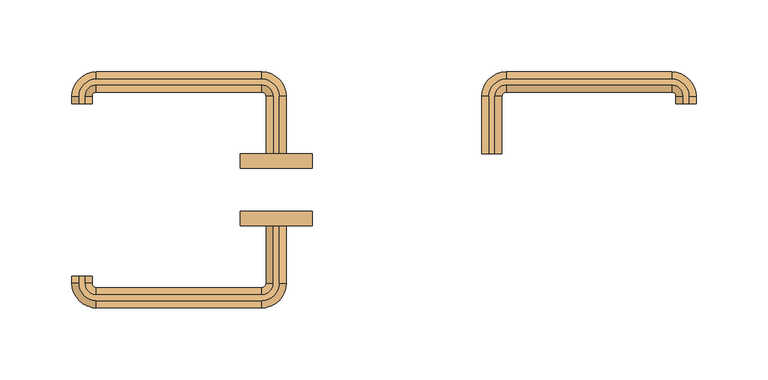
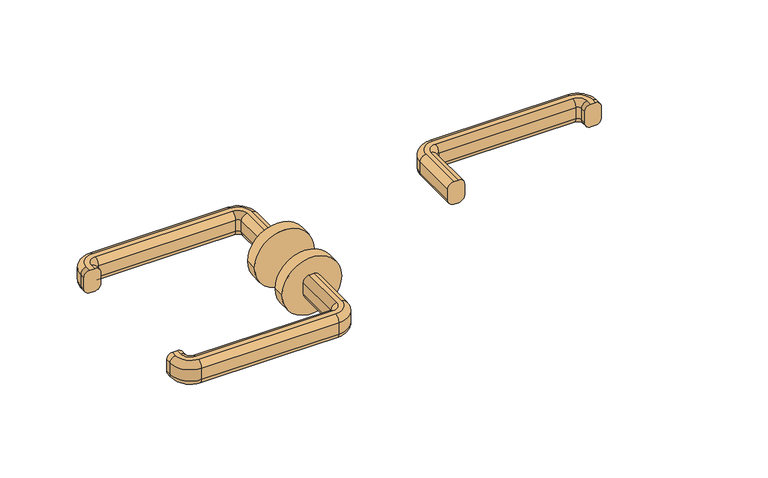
"""IFC4 building model written with IfcOpenShell, lengths in millimetres: door geometry, 両開 : SD-3 w1600h2000."""

from ifc_helpers import new_model, si_unit, point, frame, frame_2d, origin, place, context, project, spatial, polyline, circle_curve, ellipse_curve, trimmed, segment, composite_curve, outline, extrude, source, transform, mapped, element, save
from ifc_brep_helpers import plane_surface, cylinder_surface, revolved_surface, advanced_brep


def door_3436bc48(model_context):
    return source(origin(), model_context, "Body", "SolidModel", [
        advanced_brep(
        [(-73.0, 120.0, 960.0), (-77.0, 120.0, 960.0), (-82.0, 120.0, 955.0), (-82.0, 120.0, 945.0477623), (-77.0, 120.0, 940.0477623), (-73.0, 120.0, 940.0477623), (-68.0, 120.0, 945.0477623), (-68.0, 120.0, 955.0), (-68.0, 160.0, 955.0), (-73.0, 160.0, 960.0), (-68.0, 160.0, 945.0477623), (-73.0, 160.0, 940.0477623), (-77.0, 160.0, 940.0477623), (-85.0, 168.0, 940.0477623), (-200.0, 168.0, 940.0477623), (-208.0, 160.0, 940.0477623), (-208.0, 155.0, 940.0477623), (-212.0, 155.0, 940.0477623), (-212.0, 160.0, 940.0477623), (-200.0, 172.0, 940.0477623), (-85.0, 172.0, 940.0477623), (-82.0, 160.0, 945.0477623), (-82.0, 160.0, 955.0), (-77.0, 160.0, 960.0), (-85.0, 172.0, 960.0), (-200.0, 172.0, 960.0), (-212.0, 160.0, 960.0), (-212.0, 155.0, 960.0), (-208.0, 155.0, 960.0), (-208.0, 160.0, 960.0), (-200.0, 168.0, 960.0), (-85.0, 168.0, 960.0), (-85.0, 177.0, 955.0), (-85.0, 177.0, 945.0477623), (-85.0, 163.0, 945.0477623), (-85.0, 163.0, 955.0), (-200.0, 177.0, 955.0), (-200.0, 177.0, 945.0477623), (-200.0, 163.0, 945.0477623), (-200.0, 163.0, 955.0), (-217.0, 160.0, 955.0), (-217.0, 160.0, 945.0477623), (-203.0, 160.0, 945.0477623), (-203.0, 160.0, 955.0), (-217.0, 155.0, 955.0), (-217.0, 155.0, 945.0477623), (-203.0, 155.0, 945.0477623), (-203.0, 155.0, 955.0)],
        [
            (0, 1),
            (1, 2, circle_curve(frame((-77.0, 120.0, 955.0), z_axis=(0.0, -1.0, 0.0), x_axis=(1.0, 0.0, 0.0)), 5.0)),
            (2, 3),
            (3, 4, circle_curve(frame((-77.0, 120.0, 945.0477623), z_axis=(0.0, -1.0, 0.0), x_axis=(1.0, 0.0, 0.0)), 5.0)),
            (4, 5),
            (5, 6, circle_curve(frame((-73.0, 120.0, 945.0477623), z_axis=(0.0, -1.0, 0.0), x_axis=(1.0, 0.0, 0.0)), 5.0)),
            (6, 7),
            (7, 0, circle_curve(frame((-73.0, 120.0, 955.0), z_axis=(0.0, -1.0, 0.0), x_axis=(1.0, 0.0, 0.0)), 5.0)),
            (7, 8),
            (8, 9, circle_curve(frame((-73.0, 160.0, 955.0), z_axis=(0.0, -1.0, 0.0), x_axis=(1.0, 0.0, 0.0)), 5.0)),
            (9, 0),
            (6, 10),
            (10, 8),
            (5, 11),
            (11, 10, circle_curve(frame((-73.0, 160.0, 945.0477623), z_axis=(0.0, -1.0, 0.0), x_axis=(1.0, 0.0, 0.0)), 5.0)),
            (4, 12),
            (12, 13, circle_curve(frame((-85.0, 160.0, 940.0477623), z_axis=(0.0, 0.0, 1.0), x_axis=(1.0, 0.0, 0.0)), 8.0)),
            (13, 14),
            (14, 15, circle_curve(frame((-200.0, 160.0, 940.0477623), z_axis=(0.0, 0.0, 1.0), x_axis=(0.0, 1.0, 0.0)), 8.0)),
            (15, 16),
            (16, 17),
            (17, 18),
            (18, 19, circle_curve(frame((-200.0, 160.0, 940.0477623), z_axis=(0.0, 0.0, -1.0), x_axis=(0.0, 1.0, 0.0)), 12.0)),
            (19, 20),
            (20, 11, circle_curve(frame((-85.0, 160.0, 940.0477623), z_axis=(0.0, 0.0, -1.0), x_axis=(1.0, 0.0, 0.0)), 12.0)),
            (3, 21),
            (21, 12, circle_curve(frame((-77.0, 160.0, 945.0477623), z_axis=(0.0, -1.0, 0.0), x_axis=(1.0, 0.0, 0.0)), 5.0)),
            (2, 22),
            (22, 21),
            (1, 23),
            (23, 22, circle_curve(frame((-77.0, 160.0, 955.0), z_axis=(0.0, -1.0, 0.0), x_axis=(1.0, 0.0, 0.0)), 5.0)),
            (9, 24, circle_curve(frame((-85.0, 160.0, 960.0), z_axis=(0.0, 0.0, 1.0), x_axis=(1.0, 0.0, 0.0)), 12.0)),
            (24, 25),
            (25, 26, circle_curve(frame((-200.0, 160.0, 960.0), z_axis=(0.0, 0.0, 1.0), x_axis=(0.0, 1.0, 0.0)), 12.0)),
            (26, 27),
            (27, 28),
            (28, 29),
            (29, 30, circle_curve(frame((-200.0, 160.0, 960.0), z_axis=(0.0, 0.0, -1.0), x_axis=(0.0, 1.0, 0.0)), 8.0)),
            (30, 31),
            (31, 23, circle_curve(frame((-85.0, 160.0, 960.0), z_axis=(0.0, 0.0, -1.0), x_axis=(1.0, 0.0, 0.0)), 8.0)),
            (32, 24, circle_curve(frame((-85.0, 172.0, 955.0), z_axis=(1.0, 0.0, 0.0), x_axis=(0.0, 1.0, 0.0)), 5.0)),
            (8, 32, circle_curve(frame((-85.0, 160.0, 955.0), z_axis=(0.0, 0.0, 1.0), x_axis=(1.0, 0.0, 0.0)), 17.0)),
            (33, 32),
            (10, 33, circle_curve(frame((-85.0, 160.0, 945.0477623), z_axis=(0.0, 0.0, 1.0), x_axis=(1.0, 0.0, 0.0)), 17.0)),
            (20, 33, circle_curve(frame((-85.0, 172.0, 945.0477623), z_axis=(1.0, 0.0, 0.0), x_axis=(0.0, 1.0, 0.0)), 5.0)),
            (34, 13, circle_curve(frame((-85.0, 168.0, 945.0477623), z_axis=(1.0, 0.0, 0.0), x_axis=(0.0, 1.0, 0.0)), 5.0)),
            (21, 34, circle_curve(frame((-85.0, 160.0, 945.0477623), z_axis=(0.0, 0.0, 1.0), x_axis=(1.0, 0.0, 0.0)), 3.0)),
            (35, 34),
            (22, 35, circle_curve(frame((-85.0, 160.0, 955.0), z_axis=(0.0, 0.0, 1.0), x_axis=(1.0, 0.0, 0.0)), 3.0)),
            (31, 35, circle_curve(frame((-85.0, 168.0, 955.0), z_axis=(1.0, 0.0, 0.0), x_axis=(0.0, 1.0, 0.0)), 5.0)),
            (32, 36),
            (36, 25, circle_curve(frame((-200.0, 172.0, 955.0), z_axis=(1.0, 0.0, 0.0), x_axis=(0.0, 1.0, 0.0)), 5.0)),
            (33, 37),
            (37, 36),
            (19, 37, circle_curve(frame((-200.0, 172.0, 945.0477623), z_axis=(1.0, 0.0, 0.0), x_axis=(0.0, 1.0, 0.0)), 5.0)),
            (34, 38),
            (38, 14, circle_curve(frame((-200.0, 168.0, 945.0477623), z_axis=(1.0, 0.0, 0.0), x_axis=(0.0, 1.0, 0.0)), 5.0)),
            (35, 39),
            (39, 38),
            (30, 39, circle_curve(frame((-200.0, 168.0, 955.0), z_axis=(1.0, 0.0, 0.0), x_axis=(0.0, 1.0, 0.0)), 5.0)),
            (40, 26, circle_curve(frame((-212.0, 160.0, 955.0), z_axis=(0.0, 1.0, 0.0), x_axis=(-1.0, 0.0, 0.0)), 5.0)),
            (36, 40, circle_curve(frame((-200.0, 160.0, 955.0), z_axis=(0.0, 0.0, 1.0), x_axis=(0.0, 1.0, 0.0)), 17.0)),
            (41, 40),
            (37, 41, circle_curve(frame((-200.0, 160.0, 945.0477623), z_axis=(0.0, 0.0, 1.0), x_axis=(0.0, 1.0, 0.0)), 17.0)),
            (18, 41, circle_curve(frame((-212.0, 160.0, 945.0477623), z_axis=(0.0, 1.0, 0.0), x_axis=(-1.0, 0.0, 0.0)), 5.0)),
            (42, 15, circle_curve(frame((-208.0, 160.0, 945.0477623), z_axis=(0.0, 1.0, 0.0), x_axis=(-1.0, 0.0, 0.0)), 5.0)),
            (38, 42, circle_curve(frame((-200.0, 160.0, 945.0477623), z_axis=(0.0, 0.0, 1.0), x_axis=(0.0, 1.0, 0.0)), 3.0)),
            (43, 42),
            (39, 43, circle_curve(frame((-200.0, 160.0, 955.0), z_axis=(0.0, 0.0, 1.0), x_axis=(0.0, 1.0, 0.0)), 3.0)),
            (29, 43, circle_curve(frame((-208.0, 160.0, 955.0), z_axis=(0.0, 1.0, 0.0), x_axis=(-1.0, 0.0, 0.0)), 5.0)),
            (27, 44, circle_curve(frame((-212.0, 155.0, 955.0), z_axis=(0.0, -1.0, 0.0), x_axis=(-1.0, 0.0, 0.0)), 5.0)),
            (44, 45),
            (45, 17, circle_curve(frame((-212.0, 155.0, 945.0477623), z_axis=(0.0, -1.0, 0.0), x_axis=(-1.0, 0.0, 0.0)), 5.0)),
            (16, 46, circle_curve(frame((-208.0, 155.0, 945.0477623), z_axis=(0.0, -1.0, 0.0), x_axis=(-1.0, 0.0, 0.0)), 5.0)),
            (46, 47),
            (47, 28, circle_curve(frame((-208.0, 155.0, 955.0), z_axis=(0.0, -1.0, 0.0), x_axis=(-1.0, 0.0, 0.0)), 5.0)),
            (40, 44),
            (41, 45),
            (42, 46),
            (43, 47),
        ],
        [
            plane_surface(frame((-64.801961, 120.0, 950.0), z_axis=(0.0, -1.0, 0.0), x_axis=(0.0, 0.0, 1.0))),
            cylinder_surface(frame((-73.0, 120.0, 955.0), z_axis=(0.0, -1.0, 0.0), x_axis=(1.0, 0.0, 0.0)), 5.0),
            plane_surface(frame((-68.0, 120.0, 955.0), z_axis=(1.0, 0.0, 0.0), x_axis=(0.0, 1.0, 0.0))),
            cylinder_surface(frame((-73.0, 120.0, 945.0477623), z_axis=(0.0, -1.0, 0.0), x_axis=(1.0, 0.0, 0.0)), 5.0),
            plane_surface(frame((-73.0, 120.0, 940.0477623), z_axis=(0.0, 0.0, -1.0), x_axis=(0.0, 1.0, 0.0))),
            cylinder_surface(frame((-77.0, 120.0, 945.0477623), z_axis=(0.0, -1.0, 0.0), x_axis=(1.0, 0.0, 0.0)), 5.0),
            plane_surface(frame((-82.0, 120.0, 945.0477623), z_axis=(-1.0, 0.0, 0.0), x_axis=(0.0, 1.0, 0.0))),
            cylinder_surface(frame((-77.0, 120.0, 955.0), z_axis=(0.0, -1.0, 0.0), x_axis=(1.0, 0.0, 0.0)), 5.0),
            plane_surface(frame((-77.0, 120.0, 960.0), z_axis=(0.0, 0.0, 1.0), x_axis=(0.0, 1.0, 0.0))),
            revolved_surface(trimmed(ellipse_curve(frame((-73.0, 160.0, 955.0), z_axis=(0.0, 1.0, 0.0), x_axis=(1.0, 0.0, 0.0)), 5.0, 5.0), [point((-73.0, 160.0, 960.0))], [point((-68.0, 160.0, 955.0))], True, "CARTESIAN"), (-85.0, 160.0, 950.0), (0.0, 0.0, -1.0)),
            cylinder_surface(frame((-85.0, 160.0, 950.0), z_axis=(0.0, 0.0, -1.0), x_axis=(1.0, 0.0, 0.0)), 17.0),
            revolved_surface(trimmed(ellipse_curve(frame((-73.0, 160.0, 945.0477623), z_axis=(0.0, 1.0, 0.0), x_axis=(1.0, 0.0, 0.0)), 5.0, 5.0), [point((-68.0, 160.0, 945.0477623))], [point((-73.0, 160.0, 940.0477623))], True, "CARTESIAN"), (-85.0, 160.0, 950.0), (0.0, 0.0, -1.0)),
            revolved_surface(trimmed(ellipse_curve(frame((-77.0, 160.0, 945.0477623), z_axis=(0.0, 1.0, 0.0), x_axis=(1.0, 0.0, 0.0)), 5.0, 5.0), [point((-77.0, 160.0, 940.0477623))], [point((-82.0, 160.0, 945.0477623))], True, "CARTESIAN"), (-85.0, 160.0, 950.0), (0.0, 0.0, -1.0)),
            revolved_surface(polyline([(-82.0, 160.0, 945.0477623), (-82.0, 160.0, 955.0)]), (-85.0, 160.0, 950.0), (0.0, 0.0, -1.0)),
            revolved_surface(trimmed(ellipse_curve(frame((-77.0, 160.0, 955.0), z_axis=(0.0, 1.0, 0.0), x_axis=(1.0, 0.0, 0.0)), 5.0, 5.0), [point((-82.0, 160.0, 955.0))], [point((-77.0, 160.0, 960.0))], True, "CARTESIAN"), (-85.0, 160.0, 950.0), (0.0, 0.0, -1.0)),
            cylinder_surface(frame((-85.0, 172.0, 955.0), z_axis=(1.0, 0.0, 0.0), x_axis=(0.0, 1.0, 0.0)), 5.0),
            plane_surface(frame((-85.0, 177.0, 955.0), z_axis=(0.0, 1.0, 0.0), x_axis=(-1.0, 0.0, 0.0))),
            cylinder_surface(frame((-85.0, 172.0, 945.0477623), z_axis=(1.0, 0.0, 0.0), x_axis=(0.0, 1.0, 0.0)), 5.0),
            cylinder_surface(frame((-85.0, 168.0, 945.0477623), z_axis=(1.0, 0.0, 0.0), x_axis=(0.0, 1.0, 0.0)), 5.0),
            plane_surface(frame((-85.0, 163.0, 945.0477623), z_axis=(0.0, -1.0, 0.0), x_axis=(-1.0, 0.0, 0.0))),
            cylinder_surface(frame((-85.0, 168.0, 955.0), z_axis=(1.0, 0.0, 0.0), x_axis=(0.0, 1.0, 0.0)), 5.0),
            revolved_surface(trimmed(ellipse_curve(frame((-200.0, 172.0, 955.0), z_axis=(-1.0, 0.0, 0.0), x_axis=(0.0, 1.0, 0.0)), 5.0, 5.0), [point((-200.0, 172.0, 960.0))], [point((-200.0, 177.0, 955.0))], True, "CARTESIAN"), (-200.0, 160.0, 950.0), (0.0, 0.0, -1.0)),
            cylinder_surface(frame((-200.0, 160.0, 950.0), z_axis=(0.0, 0.0, -1.0), x_axis=(0.0, 1.0, 0.0)), 17.0),
            revolved_surface(trimmed(ellipse_curve(frame((-200.0, 172.0, 945.0477623), z_axis=(-1.0, 0.0, 0.0), x_axis=(0.0, 1.0, 0.0)), 5.0, 5.0), [point((-200.0, 177.0, 945.0477623))], [point((-200.0, 172.0, 940.0477623))], True, "CARTESIAN"), (-200.0, 160.0, 950.0), (0.0, 0.0, -1.0)),
            revolved_surface(trimmed(ellipse_curve(frame((-200.0, 168.0, 945.0477623), z_axis=(-1.0, 0.0, 0.0), x_axis=(0.0, 1.0, 0.0)), 5.0, 5.0), [point((-200.0, 168.0, 940.0477623))], [point((-200.0, 163.0, 945.0477623))], True, "CARTESIAN"), (-200.0, 160.0, 950.0), (0.0, 0.0, -1.0)),
            revolved_surface(polyline([(-200.0, 163.0, 945.0477623), (-200.0, 163.0, 955.0)]), (-200.0, 160.0, 950.0), (0.0, 0.0, -1.0)),
            revolved_surface(trimmed(ellipse_curve(frame((-200.0, 168.0, 955.0), z_axis=(-1.0, 0.0, 0.0), x_axis=(0.0, 1.0, 0.0)), 5.0, 5.0), [point((-200.0, 163.0, 955.0))], [point((-200.0, 168.0, 960.0))], True, "CARTESIAN"), (-200.0, 160.0, 950.0), (0.0, 0.0, -1.0)),
            plane_surface(frame((-199.801961, 155.0, 950.0), z_axis=(0.0, -1.0, 0.0), x_axis=(0.0, 0.0, -1.0))),
            cylinder_surface(frame((-212.0, 160.0, 955.0), z_axis=(0.0, 1.0, 0.0), x_axis=(-1.0, 0.0, 0.0)), 5.0),
            plane_surface(frame((-217.0, 160.0, 955.0), z_axis=(-1.0, 0.0, 0.0), x_axis=(0.0, -1.0, 0.0))),
            cylinder_surface(frame((-212.0, 160.0, 945.0477623), z_axis=(0.0, 1.0, 0.0), x_axis=(-1.0, 0.0, 0.0)), 5.0),
            cylinder_surface(frame((-208.0, 160.0, 945.0477623), z_axis=(0.0, 1.0, 0.0), x_axis=(-1.0, 0.0, 0.0)), 5.0),
            plane_surface(frame((-203.0, 160.0, 945.0477623), z_axis=(1.0, 0.0, 0.0), x_axis=(0.0, -1.0, 0.0))),
            cylinder_surface(frame((-208.0, 160.0, 955.0), z_axis=(0.0, 1.0, 0.0), x_axis=(-1.0, 0.0, 0.0)), 5.0),
        ],
        [
            (0, [[1, 2, 3, 4, 5, 6, 7, 8]]),
            (1, [[9, 10, 11, -8]]),
            (2, [[12, 13, -9, -7]]),
            (3, [[14, 15, -12, -6]]),
            (4, [[16, 17, 18, 19, 20, 21, 22, 23, 24, 25, -14, -5]]),
            (5, [[26, 27, -16, -4]]),
            (6, [[28, 29, -26, -3]]),
            (7, [[30, 31, -28, -2]]),
            (8, [[-11, 32, 33, 34, 35, 36, 37, 38, 39, 40, -30, -1]]),
            (9, [[41, -32, -10, 42]]),
            (10, [[43, -42, -13, 44]]),
            (11, [[45, -44, -15, -25]]),
            (12, [[46, -17, -27, 47]]),
            (13, [[48, -47, -29, 49]]),
            (14, [[50, -49, -31, -40]]),
            (15, [[51, 52, -33, -41]]),
            (16, [[53, 54, -51, -43]]),
            (17, [[-24, 55, -53, -45]]),
            (18, [[56, 57, -18, -46]]),
            (19, [[58, 59, -56, -48]]),
            (20, [[-39, 60, -58, -50]]),
            (21, [[61, -34, -52, 62]]),
            (22, [[63, -62, -54, 64]]),
            (23, [[65, -64, -55, -23]]),
            (24, [[66, -19, -57, 67]]),
            (25, [[68, -67, -59, 69]]),
            (26, [[70, -69, -60, -38]]),
            (27, [[71, 72, 73, -21, 74, 75, 76, -36]]),
            (28, [[77, -71, -35, -61]]),
            (29, [[78, -72, -77, -63]]),
            (30, [[-22, -73, -78, -65]]),
            (31, [[79, -74, -20, -66]]),
            (32, [[80, -75, -79, -68]]),
            (33, [[-37, -76, -80, -70]]),
        ],
    ),
        advanced_brep(
        [(-77.0, 70.0, 940.0), (-82.0, 70.0, 945.0), (-82.0, 70.0, 955.0), (-77.0, 70.0, 960.0), (-73.0, 70.0, 960.0), (-68.0, 70.0, 955.0), (-68.0, 70.0, 945.0), (-73.0, 70.0, 940.0), (-73.0, 30.0, 940.0), (-85.0, 18.0, 940.0), (-200.0, 18.0, 940.0), (-212.0, 30.0, 940.0), (-212.0, 35.0, 940.0), (-208.0, 35.0, 940.0), (-208.0, 30.0, 940.0), (-200.0, 22.0, 940.0), (-85.0, 22.0, 940.0), (-77.0, 30.0, 940.0), (-68.0, 30.0, 945.0), (-68.0, 30.0, 955.0), (-73.0, 30.0, 960.0), (-77.0, 30.0, 960.0), (-85.0, 22.0, 960.0), (-200.0, 22.0, 960.0), (-208.0, 30.0, 960.0), (-208.0, 35.0, 960.0), (-212.0, 35.0, 960.0), (-212.0, 30.0, 960.0), (-200.0, 18.0, 960.0), (-85.0, 18.0, 960.0), (-82.0, 30.0, 955.0), (-82.0, 30.0, 945.0), (-85.0, 13.0, 945.0), (-85.0, 13.0, 955.0), (-85.0, 27.0, 955.0), (-85.0, 27.0, 945.0), (-200.0, 13.0, 945.0), (-200.0, 13.0, 955.0), (-200.0, 27.0, 955.0), (-200.0, 27.0, 945.0), (-217.0, 30.0, 945.0), (-217.0, 30.0, 955.0), (-203.0, 30.0, 955.0), (-203.0, 30.0, 945.0), (-217.0, 35.0, 945.0), (-217.0, 35.0, 955.0), (-203.0, 35.0, 955.0), (-203.0, 35.0, 945.0)],
        [
            (0, 1, circle_curve(frame((-77.0, 70.0, 945.0), z_axis=(0.0, 1.0, 0.0), x_axis=(-1.0, 0.0, 0.0)), 5.0)),
            (1, 2),
            (2, 3, circle_curve(frame((-77.0, 70.0, 955.0), z_axis=(0.0, 1.0, 0.0), x_axis=(-1.0, 0.0, 0.0)), 5.0)),
            (3, 4),
            (4, 5, circle_curve(frame((-73.0, 70.0, 955.0), z_axis=(0.0, 1.0, 0.0), x_axis=(-1.0, 0.0, 0.0)), 5.0)),
            (5, 6),
            (6, 7, circle_curve(frame((-73.0, 70.0, 945.0), z_axis=(0.0, 1.0, 0.0), x_axis=(-1.0, 0.0, 0.0)), 5.0)),
            (7, 0),
            (7, 8),
            (8, 9, circle_curve(frame((-85.0, 30.0, 940.0), z_axis=(0.0, 0.0, -1.0), x_axis=(1.0, 0.0, 0.0)), 12.0)),
            (9, 10),
            (10, 11, circle_curve(frame((-200.0, 30.0, 940.0), z_axis=(0.0, 0.0, -1.0), x_axis=(0.0, -1.0, 0.0)), 12.0)),
            (11, 12),
            (12, 13),
            (13, 14),
            (14, 15, circle_curve(frame((-200.0, 30.0, 940.0), z_axis=(0.0, 0.0, 1.0), x_axis=(0.0, -1.0, 0.0)), 8.0)),
            (15, 16),
            (16, 17, circle_curve(frame((-85.0, 30.0, 940.0), z_axis=(0.0, 0.0, 1.0), x_axis=(1.0, 0.0, 0.0)), 8.0)),
            (17, 0),
            (6, 18),
            (18, 8, circle_curve(frame((-73.0, 30.0, 945.0), z_axis=(0.0, 1.0, 0.0), x_axis=(-1.0, 0.0, 0.0)), 5.0)),
            (5, 19),
            (19, 18),
            (4, 20),
            (20, 19, circle_curve(frame((-73.0, 30.0, 955.0), z_axis=(0.0, 1.0, 0.0), x_axis=(-1.0, 0.0, 0.0)), 5.0)),
            (3, 21),
            (21, 22, circle_curve(frame((-85.0, 30.0, 960.0), z_axis=(0.0, 0.0, -1.0), x_axis=(1.0, 0.0, 0.0)), 8.0)),
            (22, 23),
            (23, 24, circle_curve(frame((-200.0, 30.0, 960.0), z_axis=(0.0, 0.0, -1.0), x_axis=(0.0, -1.0, 0.0)), 8.0)),
            (24, 25),
            (25, 26),
            (26, 27),
            (27, 28, circle_curve(frame((-200.0, 30.0, 960.0), z_axis=(0.0, 0.0, 1.0), x_axis=(0.0, -1.0, 0.0)), 12.0)),
            (28, 29),
            (29, 20, circle_curve(frame((-85.0, 30.0, 960.0), z_axis=(0.0, 0.0, 1.0), x_axis=(1.0, 0.0, 0.0)), 12.0)),
            (2, 30),
            (30, 21, circle_curve(frame((-77.0, 30.0, 955.0), z_axis=(0.0, 1.0, 0.0), x_axis=(-1.0, 0.0, 0.0)), 5.0)),
            (1, 31),
            (31, 30),
            (17, 31, circle_curve(frame((-77.0, 30.0, 945.0), z_axis=(0.0, 1.0, 0.0), x_axis=(-1.0, 0.0, 0.0)), 5.0)),
            (32, 9, circle_curve(frame((-85.0, 18.0, 945.0), z_axis=(1.0, 0.0, 0.0), x_axis=(0.0, 1.0, 0.0)), 5.0)),
            (18, 32, circle_curve(frame((-85.0, 30.0, 945.0), z_axis=(0.0, 0.0, -1.0), x_axis=(1.0, 0.0, 0.0)), 17.0)),
            (33, 32),
            (19, 33, circle_curve(frame((-85.0, 30.0, 955.0), z_axis=(0.0, 0.0, -1.0), x_axis=(1.0, 0.0, 0.0)), 17.0)),
            (29, 33, circle_curve(frame((-85.0, 18.0, 955.0), z_axis=(1.0, 0.0, 0.0), x_axis=(0.0, 1.0, 0.0)), 5.0)),
            (34, 22, circle_curve(frame((-85.0, 22.0, 955.0), z_axis=(1.0, 0.0, 0.0), x_axis=(0.0, 1.0, 0.0)), 5.0)),
            (30, 34, circle_curve(frame((-85.0, 30.0, 955.0), z_axis=(0.0, 0.0, -1.0), x_axis=(1.0, 0.0, 0.0)), 3.0)),
            (35, 34),
            (31, 35, circle_curve(frame((-85.0, 30.0, 945.0), z_axis=(0.0, 0.0, -1.0), x_axis=(1.0, 0.0, 0.0)), 3.0)),
            (16, 35, circle_curve(frame((-85.0, 22.0, 945.0), z_axis=(1.0, 0.0, 0.0), x_axis=(0.0, 1.0, 0.0)), 5.0)),
            (32, 36),
            (36, 10, circle_curve(frame((-200.0, 18.0, 945.0), z_axis=(1.0, 0.0, 0.0), x_axis=(0.0, 1.0, 0.0)), 5.0)),
            (33, 37),
            (37, 36),
            (28, 37, circle_curve(frame((-200.0, 18.0, 955.0), z_axis=(1.0, 0.0, 0.0), x_axis=(0.0, 1.0, 0.0)), 5.0)),
            (34, 38),
            (38, 23, circle_curve(frame((-200.0, 22.0, 955.0), z_axis=(1.0, 0.0, 0.0), x_axis=(0.0, 1.0, 0.0)), 5.0)),
            (35, 39),
            (39, 38),
            (15, 39, circle_curve(frame((-200.0, 22.0, 945.0), z_axis=(1.0, 0.0, 0.0), x_axis=(0.0, 1.0, 0.0)), 5.0)),
            (40, 11, circle_curve(frame((-212.0, 30.0, 945.0), z_axis=(0.0, -1.0, 0.0), x_axis=(1.0, 0.0, 0.0)), 5.0)),
            (36, 40, circle_curve(frame((-200.0, 30.0, 945.0), z_axis=(0.0, 0.0, -1.0), x_axis=(0.0, -1.0, 0.0)), 17.0)),
            (41, 40),
            (37, 41, circle_curve(frame((-200.0, 30.0, 955.0), z_axis=(0.0, 0.0, -1.0), x_axis=(0.0, -1.0, 0.0)), 17.0)),
            (27, 41, circle_curve(frame((-212.0, 30.0, 955.0), z_axis=(0.0, -1.0, 0.0), x_axis=(1.0, 0.0, 0.0)), 5.0)),
            (42, 24, circle_curve(frame((-208.0, 30.0, 955.0), z_axis=(0.0, -1.0, 0.0), x_axis=(1.0, 0.0, 0.0)), 5.0)),
            (38, 42, circle_curve(frame((-200.0, 30.0, 955.0), z_axis=(0.0, 0.0, -1.0), x_axis=(0.0, -1.0, 0.0)), 3.0)),
            (43, 42),
            (39, 43, circle_curve(frame((-200.0, 30.0, 945.0), z_axis=(0.0, 0.0, -1.0), x_axis=(0.0, -1.0, 0.0)), 3.0)),
            (14, 43, circle_curve(frame((-208.0, 30.0, 945.0), z_axis=(0.0, -1.0, 0.0), x_axis=(1.0, 0.0, 0.0)), 5.0)),
            (12, 44, circle_curve(frame((-212.0, 35.0, 945.0), z_axis=(0.0, 1.0, 0.0), x_axis=(1.0, 0.0, 0.0)), 5.0)),
            (44, 45),
            (45, 26, circle_curve(frame((-212.0, 35.0, 955.0), z_axis=(0.0, 1.0, 0.0), x_axis=(1.0, 0.0, 0.0)), 5.0)),
            (25, 46, circle_curve(frame((-208.0, 35.0, 955.0), z_axis=(0.0, 1.0, 0.0), x_axis=(1.0, 0.0, 0.0)), 5.0)),
            (46, 47),
            (47, 13, circle_curve(frame((-208.0, 35.0, 945.0), z_axis=(0.0, 1.0, 0.0), x_axis=(1.0, 0.0, 0.0)), 5.0)),
            (40, 44),
            (41, 45),
            (42, 46),
            (43, 47),
        ],
        [
            plane_surface(frame((-64.801961, 70.0, 950.0), z_axis=(0.0, 1.0, 0.0), x_axis=(0.0, 0.0, -1.0))),
            plane_surface(frame((-77.0, 70.0, 940.0), z_axis=(0.0, 0.0, -1.0), x_axis=(0.0, -1.0, 0.0))),
            cylinder_surface(frame((-73.0, 70.0, 945.0), z_axis=(0.0, 1.0, 0.0), x_axis=(-1.0, 0.0, 0.0)), 5.0),
            plane_surface(frame((-68.0, 70.0, 945.0), z_axis=(1.0, 0.0, 0.0), x_axis=(0.0, -1.0, 0.0))),
            cylinder_surface(frame((-73.0, 70.0, 955.0), z_axis=(0.0, 1.0, 0.0), x_axis=(-1.0, 0.0, 0.0)), 5.0),
            plane_surface(frame((-73.0, 70.0, 960.0), z_axis=(0.0, 0.0, 1.0), x_axis=(0.0, -1.0, 0.0))),
            cylinder_surface(frame((-77.0, 70.0, 955.0), z_axis=(0.0, 1.0, 0.0), x_axis=(-1.0, 0.0, 0.0)), 5.0),
            plane_surface(frame((-82.0, 70.0, 955.0), z_axis=(-1.0, 0.0, 0.0), x_axis=(0.0, -1.0, 0.0))),
            cylinder_surface(frame((-77.0, 70.0, 945.0), z_axis=(0.0, 1.0, 0.0), x_axis=(-1.0, 0.0, 0.0)), 5.0),
            revolved_surface(trimmed(ellipse_curve(frame((-73.0, 30.0, 945.0), z_axis=(0.0, -1.0, 0.0), x_axis=(-1.0, 0.0, 0.0)), 5.0, 5.0), [point((-73.0, 30.0, 940.0))], [point((-68.0, 30.0, 945.0))], True, "CARTESIAN"), (-85.0, 30.0, 950.0), (0.0, 0.0, 1.0)),
            cylinder_surface(frame((-85.0, 30.0, 950.0), z_axis=(0.0, 0.0, 1.0), x_axis=(1.0, 0.0, 0.0)), 17.0),
            revolved_surface(trimmed(ellipse_curve(frame((-73.0, 30.0, 955.0), z_axis=(0.0, -1.0, 0.0), x_axis=(-1.0, 0.0, 0.0)), 5.0, 5.0), [point((-68.0, 30.0, 955.0))], [point((-73.0, 30.0, 960.0))], True, "CARTESIAN"), (-85.0, 30.0, 950.0), (0.0, 0.0, 1.0)),
            revolved_surface(trimmed(ellipse_curve(frame((-77.0, 30.0, 955.0), z_axis=(0.0, -1.0, 0.0), x_axis=(-1.0, 0.0, 0.0)), 5.0, 5.0), [point((-77.0, 30.0, 960.0))], [point((-82.0, 30.0, 955.0))], True, "CARTESIAN"), (-85.0, 30.0, 950.0), (0.0, 0.0, 1.0)),
            revolved_surface(polyline([(-82.0, 30.0, 955.0), (-82.0, 30.0, 945.0)]), (-85.0, 30.0, 950.0), (0.0, 0.0, 1.0)),
            revolved_surface(trimmed(ellipse_curve(frame((-77.0, 30.0, 945.0), z_axis=(0.0, -1.0, 0.0), x_axis=(-1.0, 0.0, 0.0)), 5.0, 5.0), [point((-82.0, 30.0, 945.0))], [point((-77.0, 30.0, 940.0))], True, "CARTESIAN"), (-85.0, 30.0, 950.0), (0.0, 0.0, 1.0)),
            cylinder_surface(frame((-85.0, 18.0, 945.0), z_axis=(1.0, 0.0, 0.0), x_axis=(0.0, 1.0, 0.0)), 5.0),
            plane_surface(frame((-85.0, 13.0, 945.0), z_axis=(0.0, -1.0, 0.0), x_axis=(-1.0, 0.0, 0.0))),
            cylinder_surface(frame((-85.0, 18.0, 955.0), z_axis=(1.0, 0.0, 0.0), x_axis=(0.0, 1.0, 0.0)), 5.0),
            cylinder_surface(frame((-85.0, 22.0, 955.0), z_axis=(1.0, 0.0, 0.0), x_axis=(0.0, 1.0, 0.0)), 5.0),
            plane_surface(frame((-85.0, 27.0, 955.0), z_axis=(0.0, 1.0, 0.0), x_axis=(-1.0, 0.0, 0.0))),
            cylinder_surface(frame((-85.0, 22.0, 945.0), z_axis=(1.0, 0.0, 0.0), x_axis=(0.0, 1.0, 0.0)), 5.0),
            revolved_surface(trimmed(ellipse_curve(frame((-200.0, 18.0, 945.0), z_axis=(-1.0, 0.0, 0.0), x_axis=(0.0, 1.0, 0.0)), 5.0, 5.0), [point((-200.0, 18.0, 940.0))], [point((-200.0, 13.0, 945.0))], True, "CARTESIAN"), (-200.0, 30.0, 950.0), (0.0, 0.0, 1.0)),
            cylinder_surface(frame((-200.0, 30.0, 950.0), z_axis=(0.0, 0.0, 1.0), x_axis=(0.0, -1.0, 0.0)), 17.0),
            revolved_surface(trimmed(ellipse_curve(frame((-200.0, 18.0, 955.0), z_axis=(-1.0, 0.0, 0.0), x_axis=(0.0, 1.0, 0.0)), 5.0, 5.0), [point((-200.0, 13.0, 955.0))], [point((-200.0, 18.0, 960.0))], True, "CARTESIAN"), (-200.0, 30.0, 950.0), (0.0, 0.0, 1.0)),
            revolved_surface(trimmed(ellipse_curve(frame((-200.0, 22.0, 955.0), z_axis=(-1.0, 0.0, 0.0), x_axis=(0.0, 1.0, 0.0)), 5.0, 5.0), [point((-200.0, 22.0, 960.0))], [point((-200.0, 27.0, 955.0))], True, "CARTESIAN"), (-200.0, 30.0, 950.0), (0.0, 0.0, 1.0)),
            revolved_surface(polyline([(-200.0, 27.0, 955.0), (-200.0, 27.0, 945.0)]), (-200.0, 30.0, 950.0), (0.0, 0.0, 1.0)),
            revolved_surface(trimmed(ellipse_curve(frame((-200.0, 22.0, 945.0), z_axis=(-1.0, 0.0, 0.0), x_axis=(0.0, 1.0, 0.0)), 5.0, 5.0), [point((-200.0, 27.0, 945.0))], [point((-200.0, 22.0, 940.0))], True, "CARTESIAN"), (-200.0, 30.0, 950.0), (0.0, 0.0, 1.0)),
            plane_surface(frame((-199.801961, 35.0, 950.0), z_axis=(0.0, 1.0, 0.0), x_axis=(0.0, 0.0, 1.0))),
            cylinder_surface(frame((-212.0, 30.0, 945.0), z_axis=(0.0, -1.0, 0.0), x_axis=(1.0, 0.0, 0.0)), 5.0),
            plane_surface(frame((-217.0, 30.0, 945.0), z_axis=(-1.0, 0.0, 0.0), x_axis=(0.0, 1.0, 0.0))),
            cylinder_surface(frame((-212.0, 30.0, 955.0), z_axis=(0.0, -1.0, 0.0), x_axis=(1.0, 0.0, 0.0)), 5.0),
            cylinder_surface(frame((-208.0, 30.0, 955.0), z_axis=(0.0, -1.0, 0.0), x_axis=(1.0, 0.0, 0.0)), 5.0),
            plane_surface(frame((-203.0, 30.0, 955.0), z_axis=(1.0, 0.0, 0.0), x_axis=(0.0, 1.0, 0.0))),
            cylinder_surface(frame((-208.0, 30.0, 945.0), z_axis=(0.0, -1.0, 0.0), x_axis=(1.0, 0.0, 0.0)), 5.0),
        ],
        [
            (0, [[1, 2, 3, 4, 5, 6, 7, 8]]),
            (1, [[9, 10, 11, 12, 13, 14, 15, 16, 17, 18, 19, -8]]),
            (2, [[20, 21, -9, -7]]),
            (3, [[22, 23, -20, -6]]),
            (4, [[24, 25, -22, -5]]),
            (5, [[26, 27, 28, 29, 30, 31, 32, 33, 34, 35, -24, -4]]),
            (6, [[36, 37, -26, -3]]),
            (7, [[38, 39, -36, -2]]),
            (8, [[-19, 40, -38, -1]]),
            (9, [[41, -10, -21, 42]]),
            (10, [[43, -42, -23, 44]]),
            (11, [[45, -44, -25, -35]]),
            (12, [[46, -27, -37, 47]]),
            (13, [[48, -47, -39, 49]]),
            (14, [[50, -49, -40, -18]]),
            (15, [[51, 52, -11, -41]]),
            (16, [[53, 54, -51, -43]]),
            (17, [[-34, 55, -53, -45]]),
            (18, [[56, 57, -28, -46]]),
            (19, [[58, 59, -56, -48]]),
            (20, [[-17, 60, -58, -50]]),
            (21, [[61, -12, -52, 62]]),
            (22, [[63, -62, -54, 64]]),
            (23, [[65, -64, -55, -33]]),
            (24, [[66, -29, -57, 67]]),
            (25, [[68, -67, -59, 69]]),
            (26, [[70, -69, -60, -16]]),
            (27, [[-14, 71, 72, 73, -31, 74, 75, 76]]),
            (28, [[77, -71, -13, -61]]),
            (29, [[78, -72, -77, -63]]),
            (30, [[-32, -73, -78, -65]]),
            (31, [[79, -74, -30, -66]]),
            (32, [[80, -75, -79, -68]]),
            (33, [[-15, -76, -80, -70]]),
        ],
    ),
        extrude(outline(composite_curve([segment(trimmed(circle_curve(frame_2d((950.0, -75.0)), 25.0), [point((950.0, -50.0))], [point((950.0, -100.0))], False, "CARTESIAN"), True, "CONTINUOUS"), segment(trimmed(circle_curve(frame_2d((950.0, -75.0)), 25.0), [point((950.0, -100.0))], [point((950.0, -50.0))], False, "CARTESIAN"), True, "CONTINUOUS")], self_intersect=False)), frame((0.0, 110.0, 0.0), z_axis=(0.0, 1.0, 0.0), x_axis=(0.0, 0.0, 1.0)), (0.0, 0.0, 1.0), 10.0),
        extrude(outline(composite_curve([segment(trimmed(circle_curve(frame_2d((950.0, -75.0)), 25.0), [point((950.0, -50.0))], [point((950.0, -100.0))], False, "CARTESIAN"), True, "CONTINUOUS"), segment(trimmed(circle_curve(frame_2d((950.0, -75.0)), 25.0), [point((950.0, -100.0))], [point((950.0, -50.0))], False, "CARTESIAN"), True, "CONTINUOUS")], self_intersect=False)), frame((0.0, 70.0, 0.0), z_axis=(0.0, 1.0, 0.0), x_axis=(0.0, 0.0, 1.0)), (0.0, 0.0, 1.0), 10.0),
        advanced_brep(
        [(73.0, 120.0, 960.0), (68.0, 120.0, 955.0), (68.0, 120.0, 945.0477623), (73.0, 120.0, 940.0477623), (77.0, 120.0, 940.0477623), (82.0, 120.0, 945.0477623), (82.0, 120.0, 955.0), (77.0, 120.0, 960.0), (73.0, 160.0, 960.0), (68.0, 160.0, 955.0), (68.0, 160.0, 945.0477623), (73.0, 160.0, 940.0477623), (85.0, 172.0, 940.0477623), (200.0, 172.0, 940.0477623), (212.0, 160.0, 940.0477623), (212.0, 155.0, 940.0477623), (208.0, 155.0, 940.0477623), (208.0, 160.0, 940.0477623), (200.0, 168.0, 940.0477623), (85.0, 168.0, 940.0477623), (77.0, 160.0, 940.0477623), (82.0, 160.0, 945.0477623), (82.0, 160.0, 955.0), (77.0, 160.0, 960.0), (85.0, 168.0, 960.0), (200.0, 168.0, 960.0), (208.0, 160.0, 960.0), (208.0, 155.0, 960.0), (212.0, 155.0, 960.0), (212.0, 160.0, 960.0), (200.0, 172.0, 960.0), (85.0, 172.0, 960.0), (85.0, 177.0, 955.0), (85.0, 177.0, 945.0477623), (85.0, 163.0, 945.0477623), (85.0, 163.0, 955.0), (200.0, 177.0, 955.0), (200.0, 177.0, 945.0477623), (200.0, 163.0, 945.0477623), (200.0, 163.0, 955.0), (217.0, 160.0, 955.0), (217.0, 160.0, 945.0477623), (203.0, 160.0, 945.0477623), (203.0, 160.0, 955.0), (203.0, 155.0, 955.0), (203.0, 155.0, 945.0477623), (217.0, 155.0, 945.0477623), (217.0, 155.0, 955.0)],
        [
            (0, 1, circle_curve(frame((73.0, 120.0, 955.0), z_axis=(0.0, -1.0, 0.0), x_axis=(-1.0, 0.0, 0.0)), 5.0)),
            (1, 2),
            (2, 3, circle_curve(frame((73.0, 120.0, 945.0477623), z_axis=(0.0, -1.0, 0.0), x_axis=(-1.0, 0.0, 0.0)), 5.0)),
            (3, 4),
            (4, 5, circle_curve(frame((77.0, 120.0, 945.0477623), z_axis=(0.0, -1.0, 0.0), x_axis=(-1.0, 0.0, 0.0)), 5.0)),
            (5, 6),
            (6, 7, circle_curve(frame((77.0, 120.0, 955.0), z_axis=(0.0, -1.0, 0.0), x_axis=(-1.0, 0.0, 0.0)), 5.0)),
            (7, 0),
            (0, 8),
            (8, 9, circle_curve(frame((73.0, 160.0, 955.0), z_axis=(0.0, -1.0, 0.0), x_axis=(-1.0, 0.0, 0.0)), 5.0)),
            (9, 1),
            (9, 10),
            (10, 2),
            (10, 11, circle_curve(frame((73.0, 160.0, 945.0477623), z_axis=(0.0, -1.0, 0.0), x_axis=(-1.0, 0.0, 0.0)), 5.0)),
            (11, 3),
            (11, 12, circle_curve(frame((85.0, 160.0, 940.0477623), z_axis=(0.0, 0.0, -1.0), x_axis=(-1.0, 0.0, 0.0)), 12.0)),
            (12, 13),
            (13, 14, circle_curve(frame((200.0, 160.0, 940.0477623), z_axis=(0.0, 0.0, -1.0), x_axis=(0.0, 1.0, 0.0)), 12.0)),
            (14, 15),
            (15, 16),
            (16, 17),
            (17, 18, circle_curve(frame((200.0, 160.0, 940.0477623), z_axis=(0.0, 0.0, 1.0), x_axis=(0.0, 1.0, 0.0)), 8.0)),
            (18, 19),
            (19, 20, circle_curve(frame((85.0, 160.0, 940.0477623), z_axis=(0.0, 0.0, 1.0), x_axis=(-1.0, 0.0, 0.0)), 8.0)),
            (20, 4),
            (20, 21, circle_curve(frame((77.0, 160.0, 945.0477623), z_axis=(0.0, -1.0, 0.0), x_axis=(-1.0, 0.0, 0.0)), 5.0)),
            (21, 5),
            (21, 22),
            (22, 6),
            (22, 23, circle_curve(frame((77.0, 160.0, 955.0), z_axis=(0.0, -1.0, 0.0), x_axis=(-1.0, 0.0, 0.0)), 5.0)),
            (23, 7),
            (23, 24, circle_curve(frame((85.0, 160.0, 960.0), z_axis=(0.0, 0.0, -1.0), x_axis=(-1.0, 0.0, 0.0)), 8.0)),
            (24, 25),
            (25, 26, circle_curve(frame((200.0, 160.0, 960.0), z_axis=(0.0, 0.0, -1.0), x_axis=(0.0, 1.0, 0.0)), 8.0)),
            (26, 27),
            (27, 28),
            (28, 29),
            (29, 30, circle_curve(frame((200.0, 160.0, 960.0), z_axis=(0.0, 0.0, 1.0), x_axis=(0.0, 1.0, 0.0)), 12.0)),
            (30, 31),
            (31, 8, circle_curve(frame((85.0, 160.0, 960.0), z_axis=(0.0, 0.0, 1.0), x_axis=(-1.0, 0.0, 0.0)), 12.0)),
            (32, 9, circle_curve(frame((85.0, 160.0, 955.0), z_axis=(0.0, 0.0, 1.0), x_axis=(-1.0, 0.0, 0.0)), 17.0)),
            (31, 32, circle_curve(frame((85.0, 172.0, 955.0), z_axis=(-1.0, 0.0, 0.0), x_axis=(0.0, 1.0, 0.0)), 5.0)),
            (33, 10, circle_curve(frame((85.0, 160.0, 945.0477623), z_axis=(0.0, 0.0, 1.0), x_axis=(-1.0, 0.0, 0.0)), 17.0)),
            (32, 33),
            (33, 12, circle_curve(frame((85.0, 172.0, 945.0477623), z_axis=(-1.0, 0.0, 0.0), x_axis=(0.0, 1.0, 0.0)), 5.0)),
            (34, 21, circle_curve(frame((85.0, 160.0, 945.0477623), z_axis=(0.0, 0.0, 1.0), x_axis=(-1.0, 0.0, 0.0)), 3.0)),
            (19, 34, circle_curve(frame((85.0, 168.0, 945.0477623), z_axis=(-1.0, 0.0, 0.0), x_axis=(0.0, 1.0, 0.0)), 5.0)),
            (35, 22, circle_curve(frame((85.0, 160.0, 955.0), z_axis=(0.0, 0.0, 1.0), x_axis=(-1.0, 0.0, 0.0)), 3.0)),
            (34, 35),
            (35, 24, circle_curve(frame((85.0, 168.0, 955.0), z_axis=(-1.0, 0.0, 0.0), x_axis=(0.0, 1.0, 0.0)), 5.0)),
            (30, 36, circle_curve(frame((200.0, 172.0, 955.0), z_axis=(-1.0, 0.0, 0.0), x_axis=(0.0, 1.0, 0.0)), 5.0)),
            (36, 32),
            (36, 37),
            (37, 33),
            (37, 13, circle_curve(frame((200.0, 172.0, 945.0477623), z_axis=(-1.0, 0.0, 0.0), x_axis=(0.0, 1.0, 0.0)), 5.0)),
            (18, 38, circle_curve(frame((200.0, 168.0, 945.0477623), z_axis=(-1.0, 0.0, 0.0), x_axis=(0.0, 1.0, 0.0)), 5.0)),
            (38, 34),
            (38, 39),
            (39, 35),
            (39, 25, circle_curve(frame((200.0, 168.0, 955.0), z_axis=(-1.0, 0.0, 0.0), x_axis=(0.0, 1.0, 0.0)), 5.0)),
            (40, 36, circle_curve(frame((200.0, 160.0, 955.0), z_axis=(0.0, 0.0, 1.0), x_axis=(0.0, 1.0, 0.0)), 17.0)),
            (29, 40, circle_curve(frame((212.0, 160.0, 955.0), z_axis=(0.0, 1.0, 0.0), x_axis=(1.0, 0.0, 0.0)), 5.0)),
            (41, 37, circle_curve(frame((200.0, 160.0, 945.0477623), z_axis=(0.0, 0.0, 1.0), x_axis=(0.0, 1.0, 0.0)), 17.0)),
            (40, 41),
            (41, 14, circle_curve(frame((212.0, 160.0, 945.0477623), z_axis=(0.0, 1.0, 0.0), x_axis=(1.0, 0.0, 0.0)), 5.0)),
            (42, 38, circle_curve(frame((200.0, 160.0, 945.0477623), z_axis=(0.0, 0.0, 1.0), x_axis=(0.0, 1.0, 0.0)), 3.0)),
            (17, 42, circle_curve(frame((208.0, 160.0, 945.0477623), z_axis=(0.0, 1.0, 0.0), x_axis=(1.0, 0.0, 0.0)), 5.0)),
            (43, 39, circle_curve(frame((200.0, 160.0, 955.0), z_axis=(0.0, 0.0, 1.0), x_axis=(0.0, 1.0, 0.0)), 3.0)),
            (42, 43),
            (43, 26, circle_curve(frame((208.0, 160.0, 955.0), z_axis=(0.0, 1.0, 0.0), x_axis=(1.0, 0.0, 0.0)), 5.0)),
            (27, 44, circle_curve(frame((208.0, 155.0, 955.0), z_axis=(0.0, -1.0, 0.0), x_axis=(1.0, 0.0, 0.0)), 5.0)),
            (44, 45),
            (45, 16, circle_curve(frame((208.0, 155.0, 945.0477623), z_axis=(0.0, -1.0, 0.0), x_axis=(1.0, 0.0, 0.0)), 5.0)),
            (15, 46, circle_curve(frame((212.0, 155.0, 945.0477623), z_axis=(0.0, -1.0, 0.0), x_axis=(1.0, 0.0, 0.0)), 5.0)),
            (46, 47),
            (47, 28, circle_curve(frame((212.0, 155.0, 955.0), z_axis=(0.0, -1.0, 0.0), x_axis=(1.0, 0.0, 0.0)), 5.0)),
            (47, 40),
            (46, 41),
            (45, 42),
            (44, 43),
        ],
        [
            plane_surface(frame((64.801961, 120.0, 950.0), z_axis=(0.0, -1.0, 0.0), x_axis=(0.0, 0.0, 1.0))),
            cylinder_surface(frame((73.0, 120.0, 955.0), z_axis=(0.0, -1.0, 0.0), x_axis=(-1.0, 0.0, 0.0)), 5.0),
            plane_surface(frame((68.0, 120.0, 955.0), z_axis=(-1.0, 0.0, 0.0), x_axis=(0.0, 1.0, 0.0))),
            cylinder_surface(frame((73.0, 120.0, 945.0477623), z_axis=(0.0, -1.0, 0.0), x_axis=(-1.0, 0.0, 0.0)), 5.0),
            plane_surface(frame((73.0, 120.0, 940.0477623), z_axis=(0.0, 0.0, -1.0), x_axis=(0.0, 1.0, 0.0))),
            cylinder_surface(frame((77.0, 120.0, 945.0477623), z_axis=(0.0, -1.0, 0.0), x_axis=(-1.0, 0.0, 0.0)), 5.0),
            plane_surface(frame((82.0, 120.0, 945.0477623), z_axis=(1.0, 0.0, 0.0), x_axis=(0.0, 1.0, 0.0))),
            cylinder_surface(frame((77.0, 120.0, 955.0), z_axis=(0.0, -1.0, 0.0), x_axis=(-1.0, 0.0, 0.0)), 5.0),
            plane_surface(frame((77.0, 120.0, 960.0), z_axis=(0.0, 0.0, 1.0), x_axis=(0.0, 1.0, 0.0))),
            revolved_surface(trimmed(ellipse_curve(frame((73.0, 160.0, 955.0), z_axis=(0.0, -1.0, 0.0), x_axis=(-1.0, 0.0, 0.0)), 5.0, 5.0), [point((73.0, 160.0, 960.0))], [point((68.0, 160.0, 955.0))], True, "CARTESIAN"), (85.0, 160.0, 950.0), (0.0, 0.0, -1.0)),
            cylinder_surface(frame((85.0, 160.0, 950.0), z_axis=(0.0, 0.0, -1.0), x_axis=(-1.0, 0.0, 0.0)), 17.0),
            revolved_surface(trimmed(ellipse_curve(frame((73.0, 160.0, 945.0477623), z_axis=(0.0, -1.0, 0.0), x_axis=(-1.0, 0.0, 0.0)), 5.0, 5.0), [point((68.0, 160.0, 945.0477623))], [point((73.0, 160.0, 940.0477623))], True, "CARTESIAN"), (85.0, 160.0, 950.0), (0.0, 0.0, -1.0)),
            revolved_surface(trimmed(ellipse_curve(frame((77.0, 160.0, 945.0477623), z_axis=(0.0, -1.0, 0.0), x_axis=(-1.0, 0.0, 0.0)), 5.0, 5.0), [point((77.0, 160.0, 940.0477623))], [point((82.0, 160.0, 945.0477623))], True, "CARTESIAN"), (85.0, 160.0, 950.0), (0.0, 0.0, -1.0)),
            revolved_surface(polyline([(82.0, 160.0, 945.0477623), (82.0, 160.0, 955.0)]), (85.0, 160.0, 950.0), (0.0, 0.0, -1.0)),
            revolved_surface(trimmed(ellipse_curve(frame((77.0, 160.0, 955.0), z_axis=(0.0, -1.0, 0.0), x_axis=(-1.0, 0.0, 0.0)), 5.0, 5.0), [point((82.0, 160.0, 955.0))], [point((77.0, 160.0, 960.0))], True, "CARTESIAN"), (85.0, 160.0, 950.0), (0.0, 0.0, -1.0)),
            cylinder_surface(frame((85.0, 172.0, 955.0), z_axis=(-1.0, 0.0, 0.0), x_axis=(0.0, 1.0, 0.0)), 5.0),
            plane_surface(frame((85.0, 177.0, 955.0), z_axis=(0.0, 1.0, 0.0), x_axis=(1.0, 0.0, 0.0))),
            cylinder_surface(frame((85.0, 172.0, 945.0477623), z_axis=(-1.0, 0.0, 0.0), x_axis=(0.0, 1.0, 0.0)), 5.0),
            cylinder_surface(frame((85.0, 168.0, 945.0477623), z_axis=(-1.0, 0.0, 0.0), x_axis=(0.0, 1.0, 0.0)), 5.0),
            plane_surface(frame((85.0, 163.0, 945.0477623), z_axis=(0.0, -1.0, 0.0), x_axis=(1.0, 0.0, 0.0))),
            cylinder_surface(frame((85.0, 168.0, 955.0), z_axis=(-1.0, 0.0, 0.0), x_axis=(0.0, 1.0, 0.0)), 5.0),
            revolved_surface(trimmed(ellipse_curve(frame((200.0, 172.0, 955.0), z_axis=(-1.0, 0.0, 0.0), x_axis=(0.0, 1.0, 0.0)), 5.0, 5.0), [point((200.0, 172.0, 960.0))], [point((200.0, 177.0, 955.0))], True, "CARTESIAN"), (200.0, 160.0, 950.0), (0.0, 0.0, -1.0)),
            cylinder_surface(frame((200.0, 160.0, 950.0), z_axis=(0.0, 0.0, -1.0), x_axis=(0.0, 1.0, 0.0)), 17.0),
            revolved_surface(trimmed(ellipse_curve(frame((200.0, 172.0, 945.0477623), z_axis=(-1.0, 0.0, 0.0), x_axis=(0.0, 1.0, 0.0)), 5.0, 5.0), [point((200.0, 177.0, 945.0477623))], [point((200.0, 172.0, 940.0477623))], True, "CARTESIAN"), (200.0, 160.0, 950.0), (0.0, 0.0, -1.0)),
            revolved_surface(trimmed(ellipse_curve(frame((200.0, 168.0, 945.0477623), z_axis=(-1.0, 0.0, 0.0), x_axis=(0.0, 1.0, 0.0)), 5.0, 5.0), [point((200.0, 168.0, 940.0477623))], [point((200.0, 163.0, 945.0477623))], True, "CARTESIAN"), (200.0, 160.0, 950.0), (0.0, 0.0, -1.0)),
            revolved_surface(polyline([(200.0, 163.0, 945.0477623), (200.0, 163.0, 955.0)]), (200.0, 160.0, 950.0), (0.0, 0.0, -1.0)),
            revolved_surface(trimmed(ellipse_curve(frame((200.0, 168.0, 955.0), z_axis=(-1.0, 0.0, 0.0), x_axis=(0.0, 1.0, 0.0)), 5.0, 5.0), [point((200.0, 163.0, 955.0))], [point((200.0, 168.0, 960.0))], True, "CARTESIAN"), (200.0, 160.0, 950.0), (0.0, 0.0, -1.0)),
            plane_surface(frame((199.801961, 155.0, 950.0), z_axis=(0.0, -1.0, 0.0), x_axis=(0.0, 0.0, -1.0))),
            cylinder_surface(frame((212.0, 160.0, 955.0), z_axis=(0.0, 1.0, 0.0), x_axis=(1.0, 0.0, 0.0)), 5.0),
            plane_surface(frame((217.0, 160.0, 955.0), z_axis=(1.0, 0.0, 0.0), x_axis=(0.0, -1.0, 0.0))),
            cylinder_surface(frame((212.0, 160.0, 945.0477623), z_axis=(0.0, 1.0, 0.0), x_axis=(1.0, 0.0, 0.0)), 5.0),
            cylinder_surface(frame((208.0, 160.0, 945.0477623), z_axis=(0.0, 1.0, 0.0), x_axis=(1.0, 0.0, 0.0)), 5.0),
            plane_surface(frame((203.0, 160.0, 945.0477623), z_axis=(-1.0, 0.0, 0.0), x_axis=(0.0, -1.0, 0.0))),
            cylinder_surface(frame((208.0, 160.0, 955.0), z_axis=(0.0, 1.0, 0.0), x_axis=(1.0, 0.0, 0.0)), 5.0),
        ],
        [
            (0, [[1, 2, 3, 4, 5, 6, 7, 8]]),
            (1, [[-1, 9, 10, 11]]),
            (2, [[-2, -11, 12, 13]]),
            (3, [[-3, -13, 14, 15]]),
            (4, [[-4, -15, 16, 17, 18, 19, 20, 21, 22, 23, 24, 25]]),
            (5, [[-5, -25, 26, 27]]),
            (6, [[-6, -27, 28, 29]]),
            (7, [[-7, -29, 30, 31]]),
            (8, [[-8, -31, 32, 33, 34, 35, 36, 37, 38, 39, 40, -9]]),
            (9, [[41, -10, -40, 42]]),
            (10, [[43, -12, -41, 44]]),
            (11, [[-16, -14, -43, 45]]),
            (12, [[46, -26, -24, 47]]),
            (13, [[48, -28, -46, 49]]),
            (14, [[-32, -30, -48, 50]]),
            (15, [[-42, -39, 51, 52]]),
            (16, [[-44, -52, 53, 54]]),
            (17, [[-45, -54, 55, -17]]),
            (18, [[-47, -23, 56, 57]]),
            (19, [[-49, -57, 58, 59]]),
            (20, [[-50, -59, 60, -33]]),
            (21, [[61, -51, -38, 62]]),
            (22, [[63, -53, -61, 64]]),
            (23, [[-18, -55, -63, 65]]),
            (24, [[66, -56, -22, 67]]),
            (25, [[68, -58, -66, 69]]),
            (26, [[-34, -60, -68, 70]]),
            (27, [[-36, 71, 72, 73, -20, 74, 75, 76]]),
            (28, [[-62, -37, -76, 77]]),
            (29, [[-64, -77, -75, 78]]),
            (30, [[-65, -78, -74, -19]]),
            (31, [[-67, -21, -73, 79]]),
            (32, [[-69, -79, -72, 80]]),
            (33, [[-70, -80, -71, -35]]),
        ],
    ),
    ])


if __name__ == "__main__":
    model = new_model("IFC4")
    model_context = context("Model", 3, world=origin())
    ifc_project = project(units=[si_unit("LENGTHUNIT", "METRE", prefix="MILLI")], contexts=[model_context])
    site = spatial("IfcSite", under=ifc_project)
    building = spatial("IfcBuilding", under=site)
    placement = place(None, origin())
    door_shape = door_3436bc48(model_context)
    element("IfcDoor", 1, ObjectType="両開 : SD-3 w1600h2000", at=placement, inside=building, context=model_context, shape_type="MappedRepresentation", body=[
        mapped(door_shape, transform((0.0, 0.0, 0.0), x_axis=(1.0, 0.0, 0.0), y_axis=(0.0, 1.0, 0.0), z_axis=(0.0, 0.0, 1.0))),
    ])
    save(model, "model.ifc")
